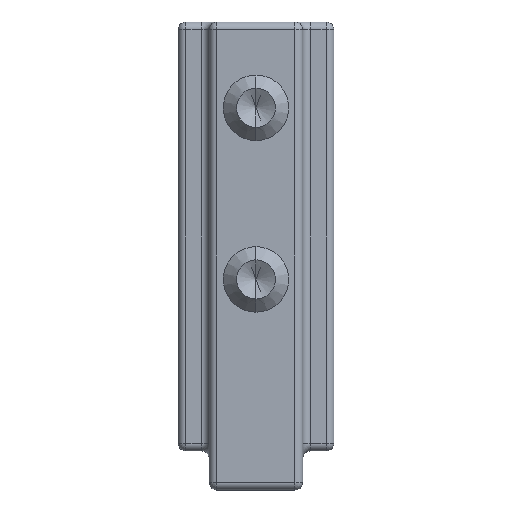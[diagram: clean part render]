
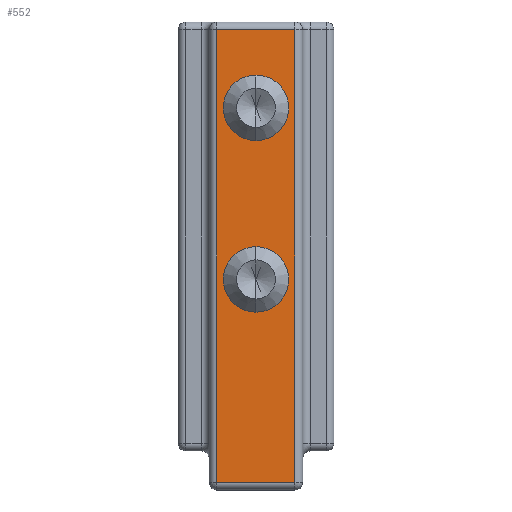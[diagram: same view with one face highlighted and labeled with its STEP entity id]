
A CAD part, front view. The second image highlights one B-rep face of the part: STEP entity #552.
In plain terms, the highlighted planar face has unit normal (0, -1, 0).
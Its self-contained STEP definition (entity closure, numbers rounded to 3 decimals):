
#38 = CARTESIAN_POINT ( 'NONE',  ( -3., 0., 15.6 ) ) ;
#70 = DIRECTION ( 'NONE',  ( 0., 1., 0. ) ) ;
#151 = DIRECTION ( 'NONE',  ( 0., 0., 1. ) ) ;
#280 = EDGE_CURVE ( 'NONE', #1448, #3070, #4171, .T. ) ;
#282 = FACE_BOUND ( 'NONE', #900, .T. ) ;
#324 = CIRCLE ( 'NONE', #3296, 2.1 ) ;
#374 = VERTEX_POINT ( 'NONE', #2631 ) ;
#448 = LINE ( 'NONE', #860, #1247 ) ;
#450 = DIRECTION ( 'NONE',  ( 0., 1., 0. ) ) ;
#525 = DIRECTION ( 'NONE',  ( 0., 1., 0. ) ) ;
#552 = ADVANCED_FACE ( 'NONE', ( #282, #2032, #4158 ), #4515, .F. ) ;
#618 = CARTESIAN_POINT ( 'NONE',  ( -3., 0., 22.4 ) ) ;
#649 = ORIENTED_EDGE ( 'NONE', *, *, #2206, .T. ) ;
#767 = ORIENTED_EDGE ( 'NONE', *, *, #2065, .T. ) ;
#856 = EDGE_LOOP ( 'NONE', ( #1325, #3397, #767, #649 ) ) ;
#860 = CARTESIAN_POINT ( 'NONE',  ( -6., 0., 0.5 ) ) ;
#900 = EDGE_LOOP ( 'NONE', ( #1969, #3146 ) ) ;
#993 = LINE ( 'NONE', #1425, #1913 ) ;
#1027 = CARTESIAN_POINT ( 'NONE',  ( -3., 0., 26.6 ) ) ;
#1189 = CARTESIAN_POINT ( 'NONE',  ( -5.5, 0., 29.5 ) ) ;
#1219 = ORIENTED_EDGE ( 'NONE', *, *, #280, .T. ) ;
#1247 = VECTOR ( 'NONE', #1573, 1000. ) ;
#1325 = ORIENTED_EDGE ( 'NONE', *, *, #2006, .T. ) ;
#1357 = AXIS2_PLACEMENT_3D ( 'NONE', #2148, #70, #2513 ) ;
#1388 = CARTESIAN_POINT ( 'NONE',  ( -0.5, 0., 30. ) ) ;
#1425 = CARTESIAN_POINT ( 'NONE',  ( -5.5, 0., 30. ) ) ;
#1448 = VERTEX_POINT ( 'NONE', #618 ) ;
#1520 = VECTOR ( 'NONE', #4241, 1000. ) ;
#1573 = DIRECTION ( 'NONE',  ( 1., 0., 0. ) ) ;
#1684 = EDGE_CURVE ( 'NONE', #374, #2746, #3210, .T. ) ;
#1696 = DIRECTION ( 'NONE',  ( 0., 1., 0. ) ) ;
#1913 = VECTOR ( 'NONE', #3577, 1000. ) ;
#1946 = VERTEX_POINT ( 'NONE', #3496 ) ;
#1969 = ORIENTED_EDGE ( 'NONE', *, *, #2425, .T. ) ;
#1982 = AXIS2_PLACEMENT_3D ( 'NONE', #2633, #525, #2977 ) ;
#2006 = EDGE_CURVE ( 'NONE', #3849, #374, #4367, .T. ) ;
#2032 = FACE_BOUND ( 'NONE', #4438, .T. ) ;
#2065 = EDGE_CURVE ( 'NONE', #2746, #4278, #993, .T. ) ;
#2066 = AXIS2_PLACEMENT_3D ( 'NONE', #3832, #1696, #4185 ) ;
#2148 = CARTESIAN_POINT ( 'NONE',  ( -3., 0., 24.5 ) ) ;
#2206 = EDGE_CURVE ( 'NONE', #4278, #3849, #448, .T. ) ;
#2234 = DIRECTION ( 'NONE',  ( 0., 1., 0. ) ) ;
#2425 = EDGE_CURVE ( 'NONE', #3160, #1946, #2798, .T. ) ;
#2456 = CIRCLE ( 'NONE', #1982, 2.1 ) ;
#2513 = DIRECTION ( 'NONE',  ( 0., 0., 1. ) ) ;
#2554 = CARTESIAN_POINT ( 'NONE',  ( -3., 0., 13.5 ) ) ;
#2576 = EDGE_CURVE ( 'NONE', #3070, #1448, #2456, .T. ) ;
#2599 = CARTESIAN_POINT ( 'NONE',  ( -5.5, 0., 29.5 ) ) ;
#2631 = CARTESIAN_POINT ( 'NONE',  ( -0.5, 0., 29.5 ) ) ;
#2633 = CARTESIAN_POINT ( 'NONE',  ( -3., 0., 24.5 ) ) ;
#2746 = VERTEX_POINT ( 'NONE', #1189 ) ;
#2798 = CIRCLE ( 'NONE', #4226, 2.1 ) ;
#2902 = DIRECTION ( 'NONE',  ( 0., 0., 1. ) ) ;
#2977 = DIRECTION ( 'NONE',  ( 0., 0., 1. ) ) ;
#3070 = VERTEX_POINT ( 'NONE', #1027 ) ;
#3076 = ORIENTED_EDGE ( 'NONE', *, *, #2576, .T. ) ;
#3146 = ORIENTED_EDGE ( 'NONE', *, *, #3895, .T. ) ;
#3160 = VERTEX_POINT ( 'NONE', #38 ) ;
#3210 = LINE ( 'NONE', #2599, #4049 ) ;
#3296 = AXIS2_PLACEMENT_3D ( 'NONE', #4372, #2234, #151 ) ;
#3397 = ORIENTED_EDGE ( 'NONE', *, *, #1684, .T. ) ;
#3496 = CARTESIAN_POINT ( 'NONE',  ( -3., 0., 11.4 ) ) ;
#3577 = DIRECTION ( 'NONE',  ( 0., 0., -1. ) ) ;
#3640 = CARTESIAN_POINT ( 'NONE',  ( -0.5, 0., 0.5 ) ) ;
#3665 = DIRECTION ( 'NONE',  ( -1., 0., 0. ) ) ;
#3832 = CARTESIAN_POINT ( 'NONE',  ( -6., 0., 30. ) ) ;
#3849 = VERTEX_POINT ( 'NONE', #3640 ) ;
#3895 = EDGE_CURVE ( 'NONE', #1946, #3160, #324, .T. ) ;
#4049 = VECTOR ( 'NONE', #3665, 1000. ) ;
#4158 = FACE_OUTER_BOUND ( 'NONE', #856, .T. ) ;
#4171 = CIRCLE ( 'NONE', #1357, 2.1 ) ;
#4185 = DIRECTION ( 'NONE',  ( 0., 0., 1. ) ) ;
#4226 = AXIS2_PLACEMENT_3D ( 'NONE', #2554, #450, #2902 ) ;
#4241 = DIRECTION ( 'NONE',  ( 0., 0., 1. ) ) ;
#4278 = VERTEX_POINT ( 'NONE', #4345 ) ;
#4345 = CARTESIAN_POINT ( 'NONE',  ( -5.5, 0., 0.5 ) ) ;
#4367 = LINE ( 'NONE', #1388, #1520 ) ;
#4372 = CARTESIAN_POINT ( 'NONE',  ( -3., 0., 13.5 ) ) ;
#4438 = EDGE_LOOP ( 'NONE', ( #3076, #1219 ) ) ;
#4515 = PLANE ( 'NONE',  #2066 ) ;
